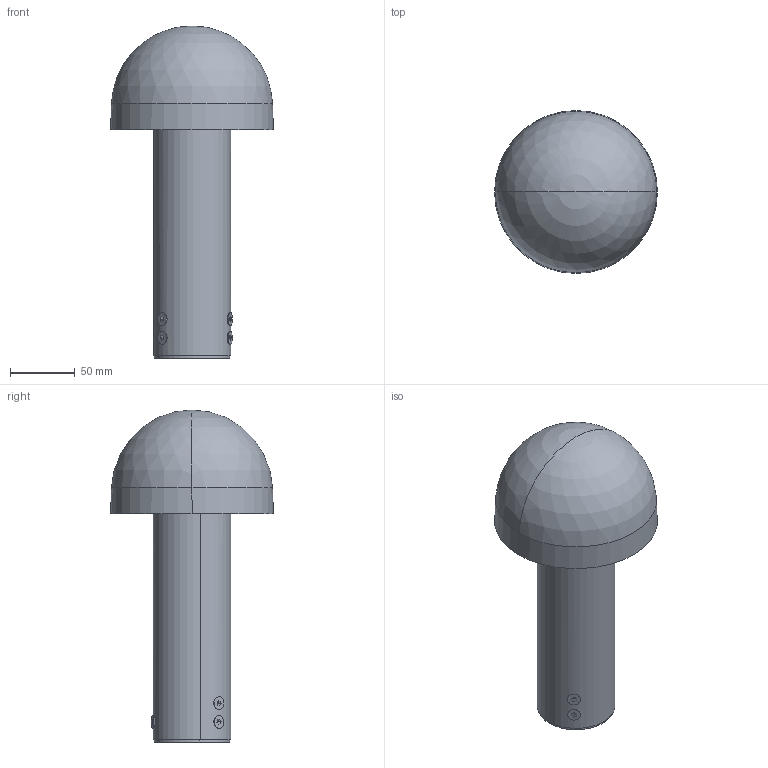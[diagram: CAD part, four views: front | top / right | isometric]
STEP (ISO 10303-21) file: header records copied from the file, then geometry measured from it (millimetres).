
FILE_DESCRIPTION((''),'2;1');
FILE_NAME('MUSHU-H200_SW0002','2025-05-26T16:47:01',('elena.baldelli'),(''),'CREO PARAMETRIC BY PTC INC, 2020354','CREO PARAMETRIC BY PTC INC, 2020354','');
FILE_SCHEMA(('CONFIG_CONTROL_DESIGN'));
Length unit declared in the file: millimetre
Products named in the file (1): MUSHU-H200_SW0002
Bounding box: 125.52 x 125.52 x 255.93 mm (x, y, z)
Surface area: 147223.8 mm2 (no closed solid volume)
Topology: 0 solids, 10 shells, 34 faces, 189 edges, 162 vertices
Faces by surface type: cylinder 11, plane 9, cone 8, sphere 4, bspline 2
Entity records: 2555 total; most frequent: CARTESIAN_POINT 1053, DIRECTION 306, ORIENTED_EDGE 228, EDGE_CURVE 185, VERTEX_POINT 162, AXIS2_PLACEMENT_3D 125, CIRCLE 93, EDGE_LOOP 66
